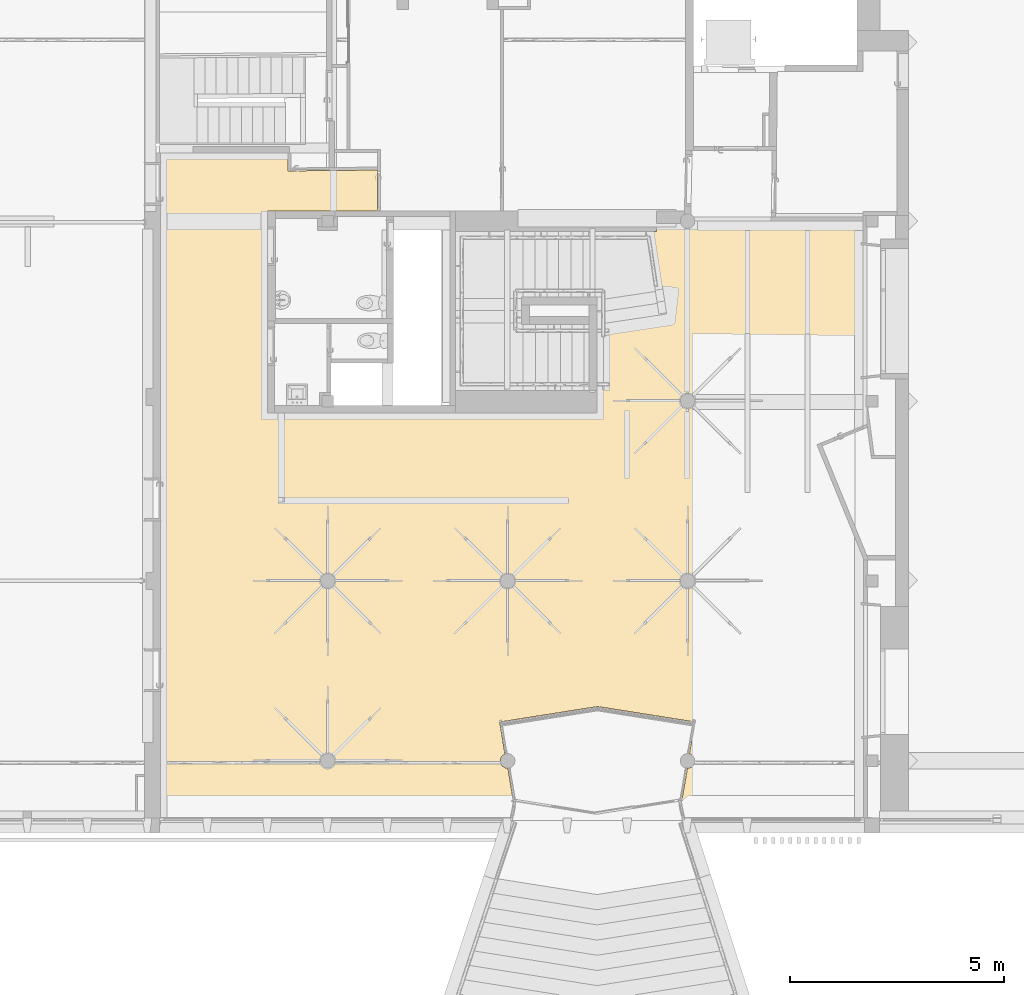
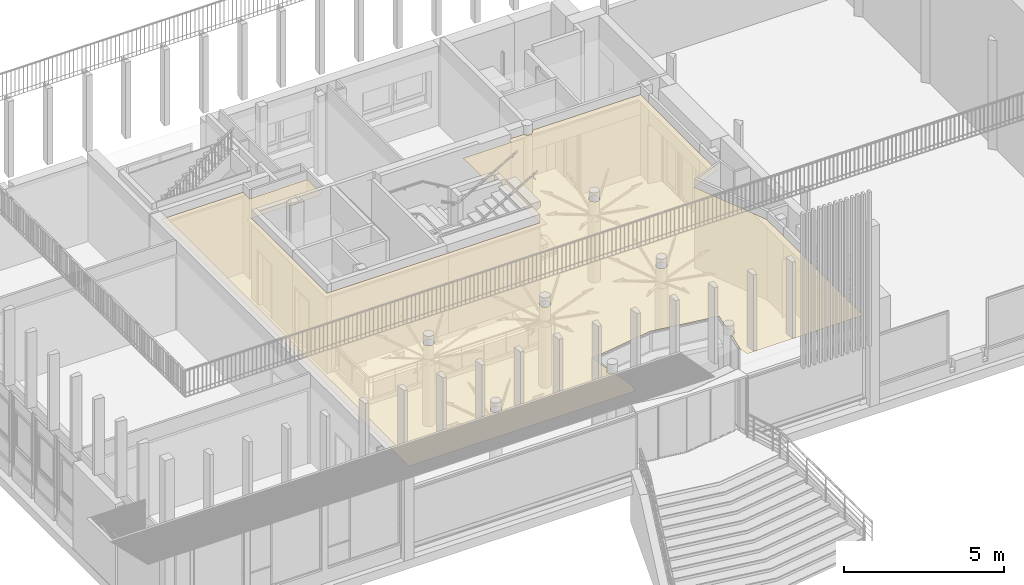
# One storey, part 54 of 65: 1 covering.
"""IFC4 building model written with IfcOpenShell, lengths in metres."""

import ifcopenshell
import ifcopenshell.guid

model = None  # the IFC model being written
_history = None  # IfcOwnerHistory: only IFC2X3 demands one
_inside = {}  # id of a spatial element -> (the spatial element, [elements in it])
_under = {}  # id of a project, library or spatial element -> (it, [spatial elements below it])
_declared = {}  # id of a project -> (the project, [libraries it declares])
_typed = {}  # id of a type object -> (the type object, [elements of that type])
_made_of = {}  # id of a material, layer set ... -> (it, [elements and type objects made of it])


def new_model(schema):
    """Start an empty IFC model of exactly this schema.

    Asked for "IFC4X3", IfcOpenShell would pick the latest addendum, in which some entities
    have other attributes; the version numbers below select the first issue.
    IFC2X3 requires an IfcOwnerHistory on every rooted entity: one is made here for all.
    """
    global model, _history
    if schema == "IFC4X3":
        model = ifcopenshell.file(schema_version=(4, 3, 0, 0))
    else:
        model = ifcopenshell.file(schema=schema)
    _inside.clear()
    _under.clear()
    _declared.clear()
    _typed.clear()
    _made_of.clear()
    _history = None
    if model.schema == "IFC2X3":
        org = make("IfcOrganization", Name="unknown")
        user = make(
            "IfcPersonAndOrganization",
            ThePerson=make("IfcPerson", FamilyName="unknown"),
            TheOrganization=org,
        )
        app = make(
            "IfcApplication",
            ApplicationDeveloper=org,
            Version="unknown",
            ApplicationFullName="unknown",
            ApplicationIdentifier="unknown",
        )
        _history = make(
            "IfcOwnerHistory",
            OwningUser=user,
            OwningApplication=app,
            ChangeAction="ADDED",
            CreationDate=0,
        )
    return model


def make(cls, **values):
    """One entity of the class cls with the attributes given. An attribute that is None is left unset."""
    return model.create_entity(
        cls, **{name: value for name, value in values.items() if value is not None}
    )


def entity(cls, *values):
    """Any entity or typed value of the class cls, its attributes in the order of the schema. None: left unset."""
    e = model.create_entity(cls)
    for i, value in enumerate(values):
        if value is not None:
            e[i] = value
    return e


def rooted(cls, **values):
    """An entity with a GlobalId (a new one), such as an element, a storey or a relation."""
    return make(cls, GlobalId=ifcopenshell.guid.new(), OwnerHistory=_history, **values)


def si_unit(unit_type, name, prefix=None):
    """IfcSIUnit, for example si_unit("LENGTHUNIT", "METRE", prefix="MILLI")."""
    return make("IfcSIUnit", UnitType=unit_type, Prefix=prefix, Name=name)


def converted_unit(unit_type, name, factor, base, dimensions=None, offset=None):
    """IfcConversionBasedUnit, such as the inch: factor (a typed value) times the base unit."""
    return make(
        "IfcConversionBasedUnit"
        if offset is None
        else "IfcConversionBasedUnitWithOffset",
        ConversionOffset=offset,
        Dimensions=None
        if dimensions is None
        else entity("IfcDimensionalExponents", *dimensions),
        UnitType=unit_type,
        Name=name,
        ConversionFactor=make(
            "IfcMeasureWithUnit", ValueComponent=factor, UnitComponent=base
        ),
    )


def derived_unit(unit_type, elements):
    """IfcDerivedUnit: a product of units, each with its exponent."""
    return make(
        "IfcDerivedUnit",
        Elements=[
            make("IfcDerivedUnitElement", Unit=unit, Exponent=power)
            for unit, power in elements
        ],
        UnitType=unit_type,
    )


def assignment(units):
    """IfcUnitAssignment: the units of a project."""
    return None if units is None else make("IfcUnitAssignment", Units=units)


def point(xyz):
    """IfcCartesianPoint."""
    return None if xyz is None else make("IfcCartesianPoint", Coordinates=xyz)


def direction(xyz):
    """IfcDirection."""
    return None if xyz is None else make("IfcDirection", DirectionRatios=xyz)


def frame(location, z_axis=None, x_axis=None):
    """IfcAxis2Placement3D, a coordinate frame: its origin and axes. An axis left out is left unset."""
    return make(
        "IfcAxis2Placement3D",
        Location=point(location),
        Axis=direction(z_axis),
        RefDirection=direction(x_axis),
    )


def origin():
    """The frame at (0, 0, 0) with its axes left unset."""
    return frame((0.0, 0.0, 0.0))


def place(relative_to, where):
    """IfcLocalPlacement: puts the frame where relative to a parent placement (None: the world)."""
    return make(
        "IfcLocalPlacement", PlacementRelTo=relative_to, RelativePlacement=where
    )


def context(
    kind, dimensions, precision=None, world=None, true_north=None, identifier=None
):
    """IfcGeometricRepresentationContext, for example the 3D "Model" context."""
    return make(
        "IfcGeometricRepresentationContext",
        ContextIdentifier=identifier,
        ContextType=kind,
        CoordinateSpaceDimension=dimensions,
        Precision=precision,
        WorldCoordinateSystem=world,
        TrueNorth=true_north,
    )


def subcontext(parent, identifier, kind, view, scale=None):
    """IfcGeometricRepresentationSubContext, for example "Body" below "Model"."""
    return make(
        "IfcGeometricRepresentationSubContext",
        ContextIdentifier=identifier,
        ContextType=kind,
        ParentContext=parent,
        TargetScale=scale,
        TargetView=view,
    )


def project(units=None, contexts=None):
    """IfcProject with its units and contexts."""
    return rooted(
        "IfcProject",
        Name="project",
        RepresentationContexts=contexts,
        UnitsInContext=assignment(units),
    )


def spatial(cls, under=None, at=None, **own):
    """A site, building, storey or space (cls), placed at a placement, below another one or the project."""
    s = rooted(cls, ObjectPlacement=at, **own)
    if under is not None:
        _under.setdefault(under.id(), (under, []))[1].append(s)
    return s


def point_list(points):
    """IfcCartesianPointList2D or 3D."""
    cls = (
        "IfcCartesianPointList2D" if len(points[0]) == 2 else "IfcCartesianPointList3D"
    )
    return make(cls, CoordList=points)


def polygons(points, faces, closed=None, point_numbers=None):
    """IfcPolygonalFaceSet: a face is its outer loop, then its inner loops; points numbered from 1."""
    made = []
    for loops in faces:
        if len(loops) == 1:
            made.append(make("IfcIndexedPolygonalFace", CoordIndex=loops[0]))
        else:
            made.append(
                make(
                    "IfcIndexedPolygonalFaceWithVoids",
                    CoordIndex=loops[0],
                    InnerCoordIndices=loops[1:],
                )
            )
    return make(
        "IfcPolygonalFaceSet",
        Coordinates=point_list(points),
        Closed=closed,
        Faces=made,
        PnIndex=point_numbers,
    )


def shape(context_of_items, identifier, shape_type, items):
    """IfcShapeRepresentation: the items that make up one representation, for example the "Body"."""
    return make(
        "IfcShapeRepresentation",
        ContextOfItems=context_of_items,
        RepresentationIdentifier=identifier,
        RepresentationType=shape_type,
        Items=items,
    )


def material(Name=None, Category=None):
    """IfcMaterial."""
    return make("IfcMaterial", Name=Name, Category=Category)


def layer(
    of_material, thickness, ventilated=None, Name=None, Category=None, Priority=None
):
    """IfcMaterialLayer: one layer of a wall or slab, of a material (None: an air gap)."""
    return make(
        "IfcMaterialLayer",
        Material=of_material,
        LayerThickness=thickness,
        IsVentilated=ventilated,
        Name=Name,
        Category=Category,
        Priority=Priority,
    )


def layer_set(layers, Name=None):
    """IfcMaterialLayerSet."""
    return make("IfcMaterialLayerSet", MaterialLayers=layers, LayerSetName=Name)


def made_of(thing, what):
    """Note that an element or type object is made of a material, layer set ...; save() writes the relation."""
    if what is not None:
        _made_of.setdefault(what.id(), (what, []))[1].append(thing)
    return thing


def type_object(cls, material=None, **own):
    """A type object (cls), such as IfcWallType, which elements share."""
    return made_of(rooted(cls, **own), material)


def element(
    cls,
    number,
    at=None,
    inside=None,
    cuts=None,
    type_object=None,
    material=None,
    context=None,
    identifier="Body",
    shape_type=None,
    held_by="IfcProductDefinitionShape",
    body=None,
    shapes=None,
    **own,
):
    """One element of the class cls, such as IfcWall. Its Tag is "e" and its number.

    at: its placement. inside: the storey or other place that contains it. cuts: it is an
    opening in that element (IfcRelVoidsElement). A single representation is given by context,
    identifier, shape_type and body (its items); several are given by shapes. held_by: the class
    of the entity that holds the representations. save() writes the other relations.
    """
    e = rooted(cls, Tag="e%d" % number, ObjectPlacement=at, **own)
    if body is not None:
        shapes = [shape(context, identifier, shape_type, body)]
    if shapes is not None:
        e.Representation = make(held_by, Representations=shapes)
    if inside is not None:
        _inside.setdefault(inside.id(), (inside, []))[1].append(e)
    if cuts is not None:
        rooted(
            "IfcRelVoidsElement", RelatingBuildingElement=cuts, RelatedOpeningElement=e
        )
    if type_object is not None:
        _typed.setdefault(type_object.id(), (type_object, []))[1].append(e)
    return made_of(e, material)


def aggregate(whole, parts):
    """IfcRelAggregates: a whole, such as a stair, and the parts it consists of."""
    return rooted("IfcRelAggregates", RelatingObject=whole, RelatedObjects=parts)


def save(model, path):
    """Write the relations noted so far, then the file.

    IfcRelAggregates (storeys below a building ...), IfcRelContainedInSpatialStructure (elements
    in a storey), IfcRelDefinesByType, IfcRelAssociatesMaterial and IfcRelDeclares: one each for
    every whole, place, type object, material and project.
    """
    for whole, parts in _under.values():
        aggregate(whole, parts)
    for where, things in _inside.values():
        rooted(
            "IfcRelContainedInSpatialStructure",
            RelatedElements=things,
            RelatingStructure=where,
        )
    for kind, things in _typed.values():
        rooted("IfcRelDefinesByType", RelatedObjects=things, RelatingType=kind)
    for what, things in _made_of.values():
        rooted("IfcRelAssociatesMaterial", RelatedObjects=things, RelatingMaterial=what)
    for by, libraries in _declared.values():
        rooted("IfcRelDeclares", RelatingContext=by, RelatedDefinitions=libraries)
    model.write(path)


model = new_model("IFC4")

# Units and contexts
model_context = context("Model", 3, precision=1e-05, world=origin(), true_north=direction((6.12303176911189e-17, 1.0)))
body_context = subcontext(model_context, "Body", "Model", "MODEL_VIEW")
ifc_project = project(units=[si_unit("LENGTHUNIT", "METRE"), si_unit("AREAUNIT", "SQUARE_METRE"), si_unit("VOLUMEUNIT", "CUBIC_METRE"), converted_unit("PLANEANGLEUNIT", "DEGREE", entity("IfcRatioMeasure", 0.0174532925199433), si_unit("PLANEANGLEUNIT", "RADIAN"), dimensions=[0, 0, 0, 0, 0, 0, 0]), si_unit("MASSUNIT", "GRAM", prefix="KILO"), derived_unit("MASSDENSITYUNIT", [(si_unit("MASSUNIT", "GRAM", prefix="KILO"), 1), (si_unit("LENGTHUNIT", "METRE"), -3)]), derived_unit("MOMENTOFINERTIAUNIT", [(si_unit("LENGTHUNIT", "METRE"), 4)]), si_unit("TIMEUNIT", "SECOND"), si_unit("FREQUENCYUNIT", "HERTZ"), si_unit("THERMODYNAMICTEMPERATUREUNIT", "DEGREE_CELSIUS"), derived_unit("THERMALTRANSMITTANCEUNIT", [(si_unit("MASSUNIT", "GRAM", prefix="KILO"), 1), (si_unit("THERMODYNAMICTEMPERATUREUNIT", "KELVIN"), -1), (si_unit("TIMEUNIT", "SECOND"), -3)]), derived_unit("VOLUMETRICFLOWRATEUNIT", [(si_unit("LENGTHUNIT", "METRE"), 3), (si_unit("TIMEUNIT", "SECOND"), -1)]), si_unit("ELECTRICCURRENTUNIT", "AMPERE"), si_unit("ELECTRICVOLTAGEUNIT", "VOLT"), si_unit("POWERUNIT", "WATT"), si_unit("FORCEUNIT", "NEWTON", prefix="KILO"), si_unit("ILLUMINANCEUNIT", "LUX"), si_unit("LUMINOUSFLUXUNIT", "LUMEN"), si_unit("LUMINOUSINTENSITYUNIT", "CANDELA"), derived_unit("USERDEFINED", [(si_unit("MASSUNIT", "GRAM", prefix="KILO"), -1), (si_unit("LENGTHUNIT", "METRE"), -2), (si_unit("TIMEUNIT", "SECOND"), 3), (si_unit("LUMINOUSFLUXUNIT", "LUMEN"), 1)]), derived_unit("LINEARVELOCITYUNIT", [(si_unit("LENGTHUNIT", "METRE"), 1), (si_unit("TIMEUNIT", "SECOND"), -1)]), si_unit("PRESSUREUNIT", "PASCAL"), derived_unit("USERDEFINED", [(si_unit("LENGTHUNIT", "METRE"), -2), (si_unit("MASSUNIT", "GRAM", prefix="KILO"), 1), (si_unit("TIMEUNIT", "SECOND"), -2)]), derived_unit("LINEARFORCEUNIT", [(si_unit("MASSUNIT", "GRAM", prefix="KILO"), 1), (si_unit("LENGTHUNIT", "METRE"), 1), (si_unit("TIMEUNIT", "SECOND"), -2), (si_unit("LENGTHUNIT", "METRE"), -1)]), derived_unit("PLANARFORCEUNIT", [(si_unit("MASSUNIT", "GRAM", prefix="KILO"), 1), (si_unit("LENGTHUNIT", "METRE"), 1), (si_unit("TIMEUNIT", "SECOND"), -2), (si_unit("LENGTHUNIT", "METRE"), -2)])], contexts=[model_context])

# Site, building, storey
site_placement = place(None, origin())
site = spatial("IfcSite", under=ifc_project, at=site_placement, Name="Default", CompositionType="ELEMENT")
building_placement = place(site_placement, origin())
building = spatial("IfcBuilding", under=site, at=building_placement, Name="HOTEL CONSULAIRE BOULOGNE SUR MER", CompositionType="ELEMENT")
storey_placement = place(building_placement, origin())
storey = spatial("IfcBuildingStorey", under=building, at=storey_placement, Name="Niveau 0", CompositionType="ELEMENT", Elevation=1.31981936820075e-13)

# Covering
ifc_material = material(Name="Faux-plafond - Trame 600 x 600", Category="Divers")
ifc_layer = layer(ifc_material, 0.0, Name="Faux-plafond - Trame 600 x 600", Category="Divers")
ifc_layer_set = layer_set([ifc_layer], Name="Plafond de base:Plafond 600 mm x 1200 mm")
covering_type = type_object("IfcCoveringType", Name="Plafond de base:Plafond 600 mm x 1200 mm", PredefinedType="CEILING")
covering_placement = place(storey_placement, frame((-5.12977317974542, -29.5380671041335, 3.0687)))
element("IfcCovering", 1, at=covering_placement, inside=storey, type_object=covering_type, material=ifc_layer_set, Name="Plafond de base:Plafond 600 mm x 1200 mm", ObjectType="Plafond de base:Plafond 600 mm x 1200 mm", PredefinedType="CEILING", context=body_context, shape_type="Tessellation", body=[
    polygons([(2.4905943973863e-14, 15.5143636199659, 1.27852954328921e-16), (0.0, 2.59888111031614e-14, 1.27852954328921e-16), (8.16759110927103, 0.0, 1.27852954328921e-16), (8.2382780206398, 0.363652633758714, 1.27852954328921e-16), (8.10708722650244, 1.15226811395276, 1.27852954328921e-16), (8.06826843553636, 1.15532828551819, 1.27852954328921e-16), (8.03116430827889, 1.16714128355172, 1.27852954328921e-16), (7.99772154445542, 1.1870873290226, 1.27852954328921e-16), (7.96969474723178, 1.21411993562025, 1.27852954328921e-16), (7.94855436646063, 1.24682081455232, 1.27852954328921e-16), (7.9354095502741, 1.28347428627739, 1.27852954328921e-16), (7.93094995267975, 1.32215729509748, 1.27852954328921e-16), (7.93578066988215, 1.36239543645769, 1.27852954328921e-16), (7.94999828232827, 1.40034676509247, 1.27852954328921e-16), (7.97279477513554, 1.43385443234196, 1.27852954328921e-16), (8.00287457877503, 1.46101413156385, 1.27852954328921e-16), (8.03852819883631, 1.48028232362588, 1.27852954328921e-16), (7.91620456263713, 2.22984713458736, 1.27852954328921e-16), (10.2000285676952, 2.59156932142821, 1.27852954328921e-16), (12.4775633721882, 2.23084324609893, 1.27852954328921e-16), (12.3462302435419, 1.48601606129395, 1.27852954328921e-16), (12.3868681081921, 1.46884768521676, 1.27852954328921e-16), (12.421720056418, 1.44180085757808, 1.27852954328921e-16), (12.4484390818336, 1.40669697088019, 1.27852954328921e-16), (12.4652258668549, 1.36589999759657, 1.27852954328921e-16), (12.4709499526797, 1.32215729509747, 1.27852954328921e-16), (12.4651584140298, 1.27816205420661, 1.27852954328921e-16), (12.4481784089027, 1.23716446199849, 1.27852954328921e-16), (12.4211668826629, 1.20195792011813, 1.27852954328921e-16), (12.3859642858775, 1.17494125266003, 1.27852954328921e-16), (12.344969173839, 1.15795526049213, 1.27852954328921e-16), (12.3009747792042, 1.15215729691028, 1.27852954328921e-16), (12.1567713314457, 0.334338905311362, 1.27852954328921e-16), (12.2244888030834, 0.0157532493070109, 1.27852954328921e-16), (16.4067741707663, 0.0157532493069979, 1.27852954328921e-16), (16.4067741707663, 6.04583586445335, 1.27852954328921e-16), (15.3210176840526, 8.70332963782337, 1.27852954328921e-16), (16.3918384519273, 9.14082853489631, 1.27852954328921e-16), (16.3918384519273, 13.9221572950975, 1.27852954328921e-16), (12.4709499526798, 13.9221572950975, 1.27852954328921e-16), (12.4655301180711, 13.8795736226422, 1.27852954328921e-16), (12.4496161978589, 13.839705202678, 1.27852954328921e-16), (12.42422290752, 13.8050941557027, 1.27852954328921e-16), (12.3909693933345, 13.7779473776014, 1.27852954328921e-16), (12.3519759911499, 13.7599958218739, 1.27852954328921e-16), (12.3097290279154, 13.7523841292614, 1.27852954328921e-16), (12.2669222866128, 13.7555976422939, 1.27852954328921e-16), (12.2262852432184, 13.769431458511, 1.27852954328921e-16), (12.1904090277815, 13.7930034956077, 1.27852954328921e-16), (12.1615812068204, 13.8248107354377, 1.27852954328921e-16), (12.1416399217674, 13.862825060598, 1.27852954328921e-16), (11.5810116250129, 13.862825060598, 1.27852954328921e-16), (11.5810116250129, 13.682825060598, 1.27852954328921e-16), (9.85713369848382, 13.682825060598, 1.27852954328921e-16), (9.85713369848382, 12.149179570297, 1.27852954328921e-16), (10.1826595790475, 12.149179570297, 1.27852954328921e-16), (10.1826595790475, 9.44315274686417, 1.27852954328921e-16), (2.50042159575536, 9.44315274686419, 1.27852954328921e-16), (2.50042159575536, 14.162825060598, 1.27852954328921e-16), (5.05914901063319, 14.162825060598, 1.27852954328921e-16), (5.05914901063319, 15.114825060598, 1.27852954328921e-16), (2.97176688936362, 15.0938746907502, 1.27852954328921e-16), (2.97176688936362, 15.5143636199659, 1.27852954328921e-16), (4.07094995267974, 1.32215729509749, 1.27852954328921e-16), (4.06515734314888, 1.27815805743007, 1.27852954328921e-16), (4.0481742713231, 1.23715729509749, 1.27852954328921e-16), (4.02115810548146, 1.20194914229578, 1.27852954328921e-16), (3.98594995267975, 1.17493297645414, 1.27852954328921e-16), (3.94494919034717, 1.15794990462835, 1.27852954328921e-16), (3.90094995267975, 1.1521572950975, 1.27852954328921e-16), (3.85695071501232, 1.15794990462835, 1.27852954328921e-16), (3.81594995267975, 1.17493297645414, 1.27852954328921e-16), (3.78074179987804, 1.20194914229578, 1.27852954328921e-16), (3.7537256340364, 1.23715729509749, 1.27852954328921e-16), (3.73674256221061, 1.27815805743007, 1.27852954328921e-16), (3.73094995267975, 1.32215729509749, 1.27852954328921e-16), (3.73674256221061, 1.36615653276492, 1.27852954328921e-16), (3.7537256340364, 1.40715729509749, 1.27852954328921e-16), (3.78074179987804, 1.4423654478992, 1.27852954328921e-16), (3.81594995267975, 1.46938161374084, 1.27852954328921e-16), (3.85695071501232, 1.48636468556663, 1.27852954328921e-16), (3.90094995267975, 1.49215729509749, 1.27852954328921e-16), (3.94494919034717, 1.48636468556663, 1.27852954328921e-16), (3.98594995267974, 1.46938161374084, 1.27852954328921e-16), (4.02115810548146, 1.4423654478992, 1.27852954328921e-16), (4.0481742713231, 1.40715729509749, 1.27852954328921e-16), (4.06515734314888, 1.36615653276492, 1.27852954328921e-16), (4.07094995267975, 5.52215729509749, 1.27852954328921e-16), (4.06515734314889, 5.47815805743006, 1.27852954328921e-16), (4.04817427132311, 5.43715729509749, 1.27852954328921e-16), (4.02115810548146, 5.40194914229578, 1.27852954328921e-16), (3.98594995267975, 5.37493297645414, 1.27852954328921e-16), (3.94494919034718, 5.35794990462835, 1.27852954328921e-16), (3.90094995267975, 5.35215729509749, 1.27852954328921e-16), (3.85695071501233, 5.35794990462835, 1.27852954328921e-16), (3.81594995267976, 5.37493297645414, 1.27852954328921e-16), (3.78074179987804, 5.40194914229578, 1.27852954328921e-16), (3.7537256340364, 5.43715729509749, 1.27852954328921e-16), (3.73674256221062, 5.47815805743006, 1.27852954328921e-16), (3.73094995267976, 5.52215729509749, 1.27852954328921e-16), (3.73674256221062, 5.56615653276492, 1.27852954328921e-16), (3.7537256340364, 5.60715729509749, 1.27852954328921e-16), (3.78074179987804, 5.6423654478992, 1.27852954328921e-16), (3.81594995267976, 5.66938161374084, 1.27852954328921e-16), (3.85695071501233, 5.68636468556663, 1.27852954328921e-16), (3.90094995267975, 5.69215729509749, 1.27852954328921e-16), (3.94494919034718, 5.68636468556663, 1.27852954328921e-16), (3.98594995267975, 5.66938161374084, 1.27852954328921e-16), (4.02115810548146, 5.6423654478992, 1.27852954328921e-16), (4.0481742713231, 5.60715729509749, 1.27852954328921e-16), (4.06515734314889, 5.56615653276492, 1.27852954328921e-16), (8.27094995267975, 5.52215729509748, 1.27852954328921e-16), (8.26515734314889, 5.47815805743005, 1.27852954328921e-16), (8.24817427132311, 5.43715729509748, 1.27852954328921e-16), (8.22115810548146, 5.40194914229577, 1.27852954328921e-16), (8.18594995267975, 5.37493297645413, 1.27852954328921e-16), (8.14494919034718, 5.35794990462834, 1.27852954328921e-16), (8.10094995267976, 5.35215729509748, 1.27852954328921e-16), (8.05695071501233, 5.35794990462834, 1.27852954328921e-16), (8.01594995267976, 5.37493297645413, 1.27852954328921e-16), (7.98074179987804, 5.40194914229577, 1.27852954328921e-16), (7.9537256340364, 5.43715729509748, 1.27852954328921e-16), (7.93674256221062, 5.47815805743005, 1.27852954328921e-16), (7.93094995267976, 5.52215729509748, 1.27852954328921e-16), (7.93674256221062, 5.5661565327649, 1.27852954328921e-16), (7.9537256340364, 5.60715729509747, 1.27852954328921e-16), (7.98074179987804, 5.64236544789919, 1.27852954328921e-16), (8.01594995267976, 5.66938161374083, 1.27852954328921e-16), (8.05695071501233, 5.68636468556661, 1.27852954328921e-16), (8.10094995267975, 5.69215729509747, 1.27852954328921e-16), (8.14494919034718, 5.68636468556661, 1.27852954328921e-16), (8.18594995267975, 5.66938161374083, 1.27852954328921e-16), (8.22115810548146, 5.64236544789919, 1.27852954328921e-16), (8.24817427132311, 5.60715729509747, 1.27852954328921e-16), (8.26515734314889, 5.56615653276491, 1.27852954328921e-16), (12.4709499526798, 5.52215729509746, 1.27852954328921e-16), (12.4651573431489, 5.47815805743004, 1.27852954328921e-16), (12.4481742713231, 5.43715729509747, 1.27852954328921e-16), (12.4211581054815, 5.40194914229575, 1.27852954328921e-16), (12.3859499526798, 5.37493297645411, 1.27852954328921e-16), (12.3449491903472, 5.35794990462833, 1.27852954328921e-16), (12.3009499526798, 5.35215729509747, 1.27852954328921e-16), (12.2569507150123, 5.35794990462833, 1.27852954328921e-16), (12.2159499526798, 5.37493297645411, 1.27852954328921e-16), (12.180741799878, 5.40194914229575, 1.27852954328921e-16), (12.1537256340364, 5.43715729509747, 1.27852954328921e-16), (12.1367425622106, 5.47815805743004, 1.27852954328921e-16), (12.1309499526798, 5.52215729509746, 1.27852954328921e-16), (12.1367425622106, 5.56615653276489, 1.27852954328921e-16), (12.1537256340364, 5.60715729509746, 1.27852954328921e-16), (12.180741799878, 5.64236544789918, 1.27852954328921e-16), (12.2159499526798, 5.66938161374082, 1.27852954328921e-16), (12.2569507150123, 5.6863646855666, 1.27852954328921e-16), (12.3009499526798, 5.69215729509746, 1.27852954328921e-16), (12.3449491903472, 5.6863646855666, 1.27852954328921e-16), (12.3859499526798, 5.66938161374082, 1.27852954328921e-16), (12.4211581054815, 5.64236544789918, 1.27852954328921e-16), (12.4481742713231, 5.60715729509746, 1.27852954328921e-16), (12.4651573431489, 5.56615653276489, 1.27852954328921e-16), (12.4709499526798, 9.72215729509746, 1.27852954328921e-16), (12.4651573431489, 9.67815805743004, 1.27852954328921e-16), (12.4481742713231, 9.63715729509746, 1.27852954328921e-16), (12.4211581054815, 9.60194914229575, 1.27852954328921e-16), (12.3859499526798, 9.57493297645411, 1.27852954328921e-16), (12.3449491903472, 9.55794990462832, 1.27852954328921e-16), (12.3009499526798, 9.55215729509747, 1.27852954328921e-16), (12.2569507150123, 9.55794990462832, 1.27852954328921e-16), (12.2159499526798, 9.57493297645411, 1.27852954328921e-16), (12.1807417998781, 9.60194914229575, 1.27852954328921e-16), (12.1537256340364, 9.63715729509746, 1.27852954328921e-16), (12.1367425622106, 9.67815805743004, 1.27852954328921e-16), (12.1309499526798, 9.72215729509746, 1.27852954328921e-16), (12.1367425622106, 9.76615653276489, 1.27852954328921e-16), (12.1537256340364, 9.80715729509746, 1.27852954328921e-16), (12.1807417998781, 9.84236544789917, 1.27852954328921e-16), (12.2159499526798, 9.86938161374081, 1.27852954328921e-16), (12.2569507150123, 9.8863646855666, 1.27852954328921e-16), (12.3009499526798, 9.89215729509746, 1.27852954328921e-16), (12.3449491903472, 9.8863646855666, 1.27852954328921e-16), (12.3859499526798, 9.86938161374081, 1.27852954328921e-16), (12.4211581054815, 9.84236544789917, 1.27852954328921e-16), (12.4481742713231, 9.80715729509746, 1.27852954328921e-16), (12.4651573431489, 9.76615653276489, 1.27852954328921e-16)], [[[2, 3, 4, 5, 6, 7, 8, 9, 10, 11, 12, 13, 14, 15, 16, 17, 18, 19, 20, 21, 22, 23, 24, 25, 26, 27, 28, 29, 30, 31, 32, 33, 34, 35, 36, 37, 38, 39, 40, 41, 42, 43, 44, 45, 46, 47, 48, 49, 50, 51, 52, 53, 54, 55, 56, 57, 58, 59, 60, 61, 62, 63, 1], [74, 75, 76, 77, 78, 79, 80, 81, 82, 83, 84, 85, 86, 87, 64, 65, 66, 67, 68, 69, 70, 71, 72, 73], [91, 92, 93, 94, 95, 96, 97, 98, 99, 100, 101, 102, 103, 104, 105, 106, 107, 108, 109, 110, 111, 88, 89, 90], [121, 122, 123, 124, 125, 126, 127, 128, 129, 130, 131, 132, 133, 134, 135, 112, 113, 114, 115, 116, 117, 118, 119, 120], [147, 148, 149, 150, 151, 152, 153, 154, 155, 156, 157, 158, 159, 136, 137, 138, 139, 140, 141, 142, 143, 144, 145, 146], [164, 165, 166, 167, 168, 169, 170, 171, 172, 173, 174, 175, 176, 177, 178, 179, 180, 181, 182, 183, 160, 161, 162, 163]]], closed=True),
])

save(model, "model.ifc")
